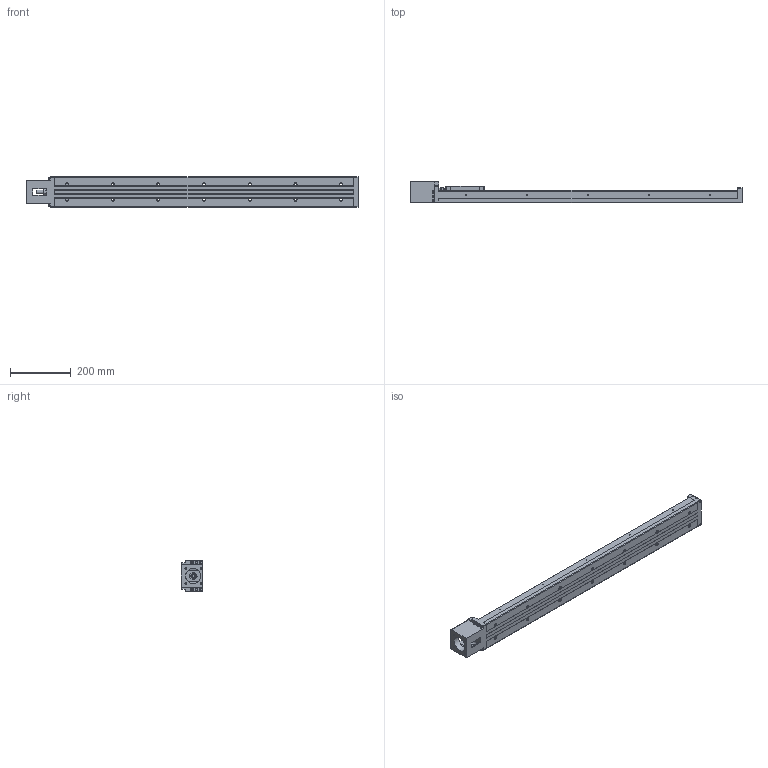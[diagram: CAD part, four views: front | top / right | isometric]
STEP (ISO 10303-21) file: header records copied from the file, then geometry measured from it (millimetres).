
FILE_DESCRIPTION(/* description */ ('STEP AP203'),/* implementation_level */ '2;1');
FILE_NAME(/* name */ 'SKR5520A-0800-0-00A0 (400W00)',/* time_stamp */ '2024-05-13T08:40:41+02:00',/* author */ ('License CC BY-ND 4.0'),/* organization */ ('CADENAS'),/* preprocessor_version */ 'ST-DEVELOPER v19.3',/* originating_system */ 'PARTsolutions',/* authorisation */ ' ');
FILE_SCHEMA (('CONFIG_CONTROL_DESIGN'));
Length unit declared in the file: millimetre
Products named in the file (3): SKR5520A-0800-0-00A0 (400W00); SKR55A-800-0-00A0_(Direct mount)---body; SKR55A-0---slider
Assembly tree (2 placements, depth 2):
  SKR5520A-0800-0-00A0 (400W00)
    SKR55A-800-0-00A0_(Direct mount)---body
    SKR55A-0---slider
Bounding box: 1089 x 72 x 100 mm (x, y, z)
Volume: 2746312.7 mm3; surface area: 514878.2 mm2
Topology: 2 solids, 2 shells, 625 faces, 1526 edges, 988 vertices
Faces by surface type: plane 387, cylinder 146, cone 74, torus 16, sphere 2
Full cylindrical faces by diameter (mm): 2.113 x10, 2.459 x5, 3.242 x2, 4.134 x4, 5 x4, 5.2 x4, 6.647 x4, 8.5 x12, 9 x14, 9.2 x6, 9.5 x2, 10 x6, 12 x1, 14 x14, 15 x1, 17 x1, 20 x2, 20.6 x1, 21 x1, 30 x1, 50 x1
Entity records: 17230 total; most frequent: CARTESIAN_POINT 2988, DIRECTION 2916, ORIENTED_EDGE 2606, EDGE_CURVE 1303, AXIS2_PLACEMENT_3D 998, VERTEX_POINT 971, FACE_BOUND 950, EDGE_LOOP 932
